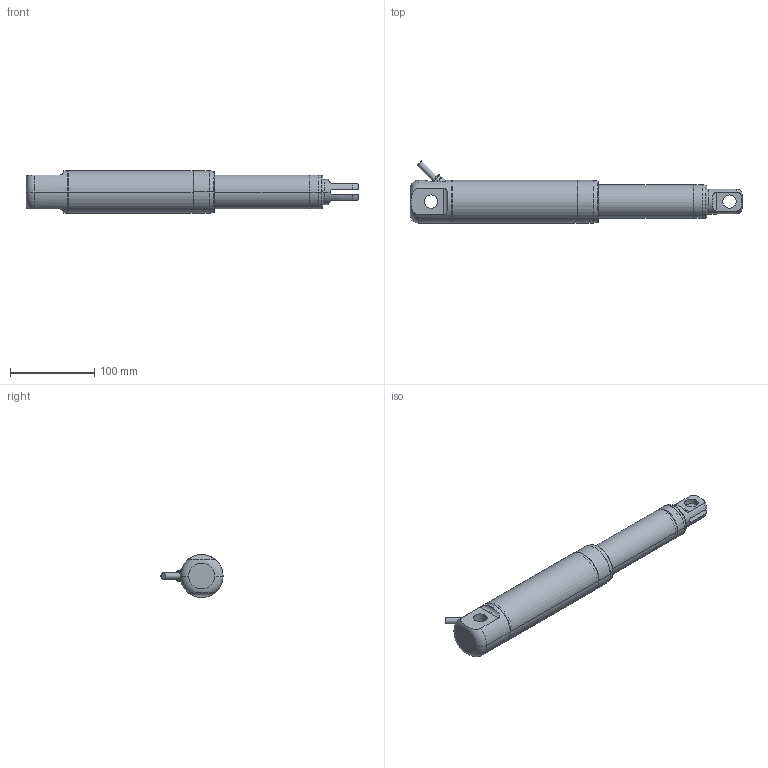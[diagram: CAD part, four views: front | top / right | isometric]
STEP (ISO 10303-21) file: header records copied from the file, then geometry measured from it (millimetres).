
FILE_DESCRIPTION (( 'STEP AP214' ), '1' );
FILE_NAME ('MK50-Standard-S100.STEP', '2024-10-07T03:41:34', ( '' ), ( '' ), 'SwSTEP 2.0', 'SolidWorks 2023', '' );
FILE_SCHEMA (( 'AUTOMOTIVE_DESIGN' ));
Length unit declared in the file: millimetre
Products named in the file (3): MK50-1-149-1.step; MK50-Standard-S100; MK50-2.step
Assembly tree (2 placements, depth 2):
  MK50-Standard-S100
    MK50-1-149-1.step
    MK50-2.step
Bounding box: 395 x 73.78 x 50.8 mm (x, y, z)
Volume: 230285 mm3; surface area: 141736.9 mm2
Topology: 2 solids, 7 shells, 251 faces, 581 edges, 371 vertices
Faces by surface type: cylinder 116, plane 60, cone 49, torus 18, bspline 8
Full cylindrical faces by diameter (mm): 7.5 x1, 13.5 x1
Entity records: 12849 total; most frequent: CARTESIAN_POINT 7011, DIRECTION 1240, ORIENTED_EDGE 1158, EDGE_CURVE 579, AXIS2_PLACEMENT_3D 529, VERTEX_POINT 371, EDGE_LOOP 304, CIRCLE 281
